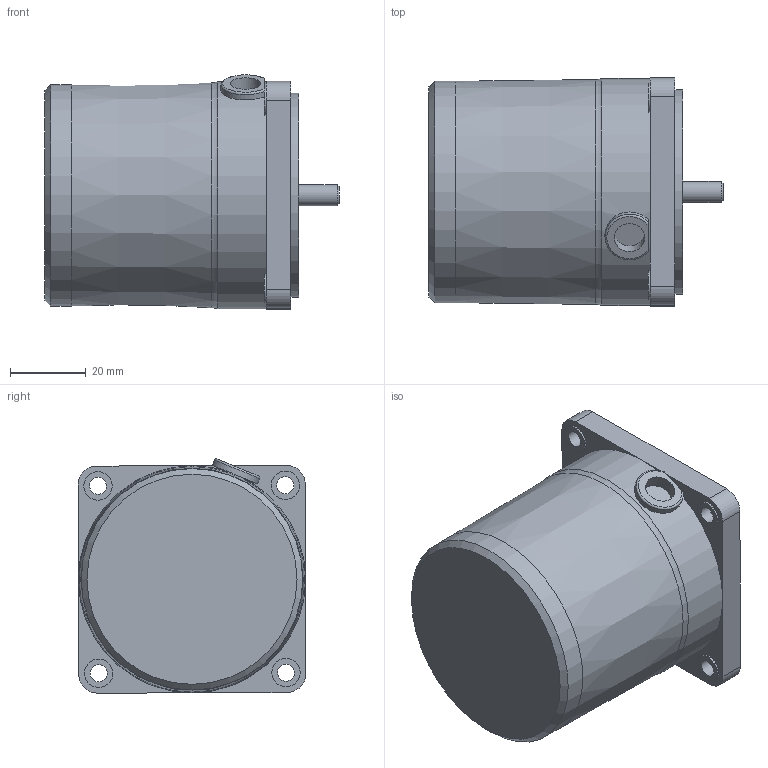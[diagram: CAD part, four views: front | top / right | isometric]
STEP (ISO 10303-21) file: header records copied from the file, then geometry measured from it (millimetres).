
FILE_DESCRIPTION((''),'2;1');
FILE_NAME('D:\김성묵\업무폴더\개발 파일\프로젝트 개발 AB등급\AC표준형 개발자료\90각 이하 표준형 개발\도면작성 자료\3D 도면\홈페이지용 3D 파일\3W MOTOR\S6I03G.stp','2015-03-25T10:39:50',('smkim'),(''),'Autodesk Inventor 2012','Autodesk Inventor 2012','');
FILE_SCHEMA(('AUTOMOTIVE_DESIGN { 1 0 10303 214 1 1 1 1 }'));
Length unit declared in the file: millimetre
Products named in the file (4): S6I03G; S6I03GㅁCE; 6_CORD BUSH; S6_HOUSNG A_G
Assembly tree (3 placements, depth 2):
  S6I03G
    S6I03GㅁCE
    6_CORD BUSH
    S6_HOUSNG A_G
Bounding box: 77.7 x 60.17 x 61.92 mm (x, y, z)
Volume: 182362.8 mm3; surface area: 27308.6 mm2
Topology: 3 solids, 3 shells, 82 faces, 200 edges, 131 vertices
Faces by surface type: plane 46, cylinder 29, cone 5, torus 2
Full cylindrical faces by diameter (mm): 4.5 x4, 5.57 x1, 7.5 x4, 8 x1, 10.1 x1, 25 x1, 54 x1, 58.5 x1, 60 x1
Entity records: 2479 total; most frequent: CARTESIAN_POINT 455, DIRECTION 424, ORIENTED_EDGE 354, EDGE_CURVE 177, AXIS2_PLACEMENT_3D 166, VERTEX_POINT 128, EDGE_LOOP 123, VECTOR 92
